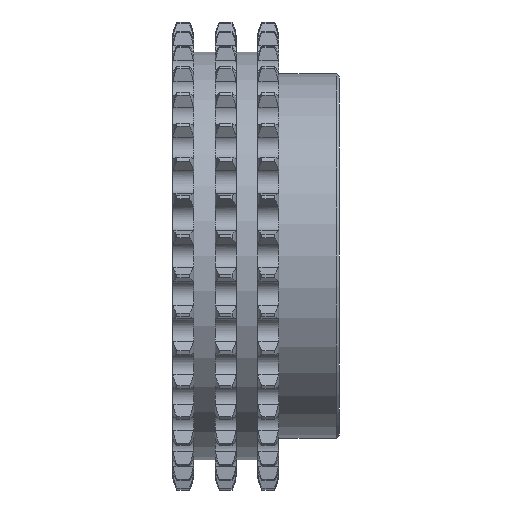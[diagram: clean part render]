
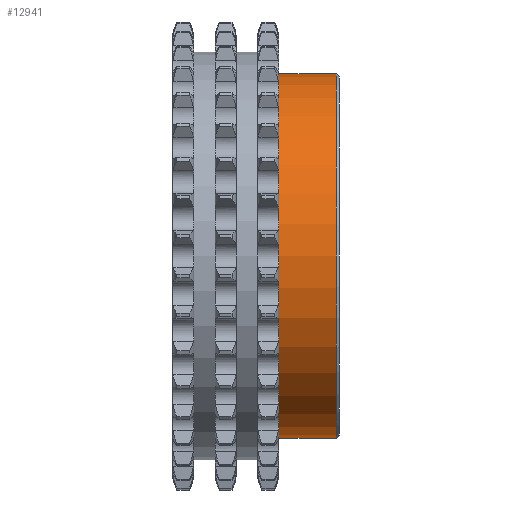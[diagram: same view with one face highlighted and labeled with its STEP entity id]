
A CAD part, front view. The second image highlights one B-rep face of the part: STEP entity #12941.
In plain terms, the highlighted cylindrical face has radius 60 mm (diameter 120 mm), a full revolution.
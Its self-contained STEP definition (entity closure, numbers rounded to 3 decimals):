
#245=FACE_BOUND('',#1612,.T.);
#926=FACE_OUTER_BOUND('',#1611,.T.);
#1611=EDGE_LOOP('',(#11559));
#1612=EDGE_LOOP('',(#11560));
#2303=CIRCLE('',#14292,60.);
#2304=CIRCLE('',#14293,60.);
#5573=VERTEX_POINT('',#26325);
#5574=VERTEX_POINT('',#26327);
#7653=EDGE_CURVE('',#5573,#5573,#2303,.T.);
#7654=EDGE_CURVE('',#5574,#5574,#2304,.T.);
#11559=ORIENTED_EDGE('',*,*,#7653,.T.);
#11560=ORIENTED_EDGE('',*,*,#7654,.F.);
#12271=CYLINDRICAL_SURFACE('',#14291,60.);
#12941=ADVANCED_FACE('',(#926,#245),#12271,.T.);
#14291=AXIS2_PLACEMENT_3D('',#26324,#17427,#17428);
#14292=AXIS2_PLACEMENT_3D('',#26326,#17429,#17430);
#14293=AXIS2_PLACEMENT_3D('',#26328,#17431,#17432);
#17427=DIRECTION('center_axis',(1.,0.,0.));
#17428=DIRECTION('ref_axis',(0.,1.,0.));
#17429=DIRECTION('center_axis',(1.,0.,0.));
#17430=DIRECTION('ref_axis',(0.,0.,-1.));
#17431=DIRECTION('center_axis',(1.,0.,0.));
#17432=DIRECTION('ref_axis',(0.,0.,-1.));
#26324=CARTESIAN_POINT('Origin',(36.245,-14.923,0.));
#26325=CARTESIAN_POINT('',(26.745,45.077,0.));
#26326=CARTESIAN_POINT('Origin',(26.745,-14.923,0.));
#26327=CARTESIAN_POINT('',(45.745,45.077,0.));
#26328=CARTESIAN_POINT('Origin',(45.745,-14.923,0.));
